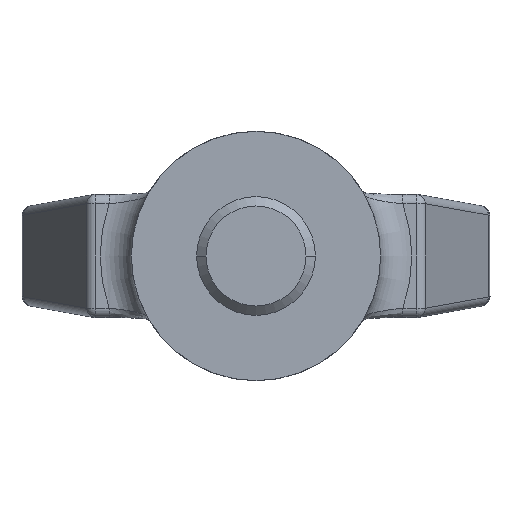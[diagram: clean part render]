
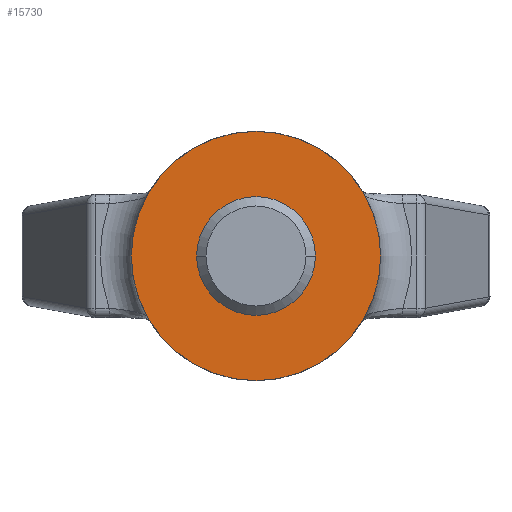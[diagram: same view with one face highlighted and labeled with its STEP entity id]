
A CAD part, front view. The second image highlights one B-rep face of the part: STEP entity #15730.
In plain terms, the highlighted planar face has unit normal (0, -1, 0).
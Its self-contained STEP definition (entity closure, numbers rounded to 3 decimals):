
#5484=CARTESIAN_POINT('',(0.,-35.,0.));
#5485=DIRECTION('',(0.,-1.,0.));
#5486=DIRECTION('',(-1.,0.,0.));
#5487=AXIS2_PLACEMENT_3D('',#5484,#5485,#5486);
#5489=CARTESIAN_POINT('',(0.,-35.,0.));
#5490=DIRECTION('',(0.,1.,0.));
#5491=DIRECTION('',(-1.,0.,0.));
#5492=AXIS2_PLACEMENT_3D('',#5489,#5490,#5491);
#5544=CARTESIAN_POINT('',(-20.,-35.,0.));
#5545=CARTESIAN_POINT('',(20.,-35.,0.));
#5546=VERTEX_POINT('',#5544);
#5547=VERTEX_POINT('',#5545);
#15721=CARTESIAN_POINT('',(0.,-35.,0.));
#15722=DIRECTION('',(0.,1.,0.));
#15723=DIRECTION('',(1.,0.,0.));
#15724=AXIS2_PLACEMENT_3D('',#15721,#15722,#15723);
#15725=PLANE('',#15724);
#15726=ORIENTED_EDGE('',*,*,#8420,.F.);
#15727=ORIENTED_EDGE('',*,*,#7193,.T.);
#15728=EDGE_LOOP('',(#15726,#15727));
#15729=FACE_OUTER_BOUND('',#15728,.F.);
#15730=ADVANCED_FACE('',(#15729),#15725,.F.);
#5488=CIRCLE('',#5487,20.);
#5493=CIRCLE('',#5492,20.);
#7193=EDGE_CURVE('',#5546,#5547,#5493,.T.);
#8420=EDGE_CURVE('',#5546,#5547,#5488,.T.);
